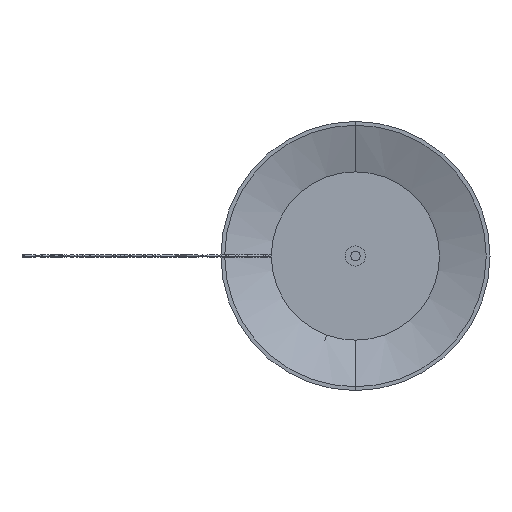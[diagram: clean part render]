
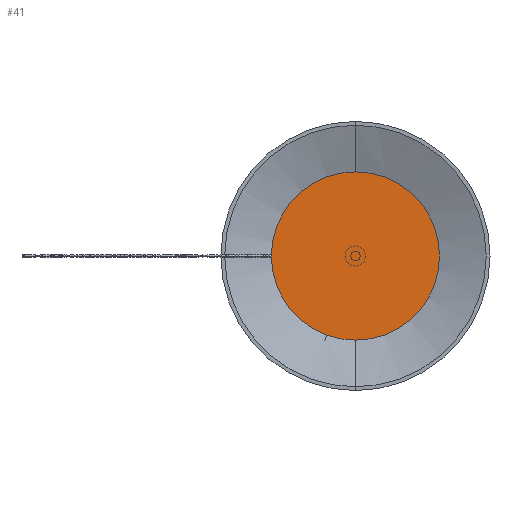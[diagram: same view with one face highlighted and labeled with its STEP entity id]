
A CAD part, front view. The second image highlights one B-rep face of the part: STEP entity #41.
In plain terms, the highlighted planar face has unit normal (0, -1, 0).
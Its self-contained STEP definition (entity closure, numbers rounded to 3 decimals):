
#10 = CARTESIAN_POINT ( 'NONE',  ( 0., -1291.022, 0. ) ) ;
#11 = EDGE_CURVE ( 'NONE', #522, #1238, #770, .T. ) ;
#30 = DIRECTION ( 'NONE',  ( 0., 0., -1. ) ) ;
#41 = ADVANCED_FACE ( 'NONE', ( #1460 ), #1165, .T. ) ;
#119 = DIRECTION ( 'NONE',  ( 0., -1., 0. ) ) ;
#124 = DIRECTION ( 'NONE',  ( 0., -1., 0. ) ) ;
#243 = DIRECTION ( 'NONE',  ( 0., -1., 0. ) ) ;
#268 = CARTESIAN_POINT ( 'NONE',  ( 0., -1291.022, -125. ) ) ;
#451 = DIRECTION ( 'NONE',  ( 0., 0., -1. ) ) ;
#522 = VERTEX_POINT ( 'NONE', #699 ) ;
#538 = AXIS2_PLACEMENT_3D ( 'NONE', #10, #119, #30 ) ;
#575 = CARTESIAN_POINT ( 'NONE',  ( 0., -1291.022, 0. ) ) ;
#699 = CARTESIAN_POINT ( 'NONE',  ( 0., -1291.022, 125. ) ) ;
#770 = CIRCLE ( 'NONE', #1282, 125. ) ;
#814 = EDGE_CURVE ( 'NONE', #1238, #522, #1359, .T. ) ;
#944 = CARTESIAN_POINT ( 'NONE',  ( 0., -1291.022, 0. ) ) ;
#1165 = PLANE ( 'NONE',  #538 ) ;
#1174 = AXIS2_PLACEMENT_3D ( 'NONE', #944, #243, #1184 ) ;
#1184 = DIRECTION ( 'NONE',  ( 0., 0., -1. ) ) ;
#1238 = VERTEX_POINT ( 'NONE', #268 ) ;
#1280 = ORIENTED_EDGE ( 'NONE', *, *, #11, .T. ) ;
#1282 = AXIS2_PLACEMENT_3D ( 'NONE', #575, #124, #451 ) ;
#1333 = EDGE_LOOP ( 'NONE', ( #1280, #1394 ) ) ;
#1359 = CIRCLE ( 'NONE', #1174, 125. ) ;
#1394 = ORIENTED_EDGE ( 'NONE', *, *, #814, .T. ) ;
#1460 = FACE_OUTER_BOUND ( 'NONE', #1333, .T. ) ;
